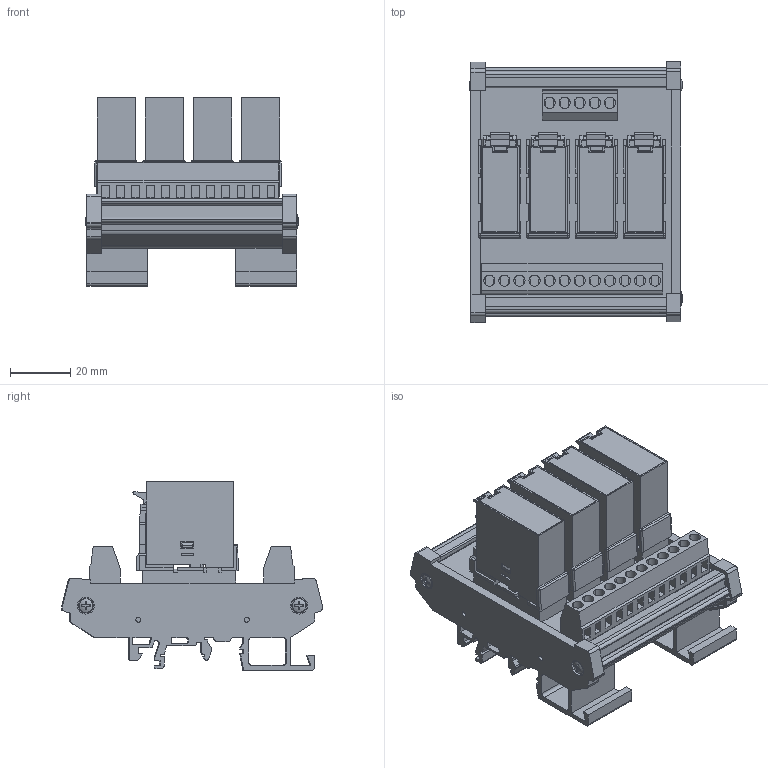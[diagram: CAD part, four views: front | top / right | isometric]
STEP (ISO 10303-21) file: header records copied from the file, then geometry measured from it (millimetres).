
FILE_DESCRIPTION (( 'STEP AP203' ), '1' );
FILE_NAME ('4弇耀郪 俋倛.STEP', '2022-12-28T08:25:05', ( '' ), ( '' ), 'SwSTEP 2.0', 'SolidWorks 2018', '' );
FILE_SCHEMA (( 'CONFIG_CONTROL_DESIGN' ));
Length unit declared in the file: millimetre
Products named in the file (3): 4弇耀郪 俋倛; RFT-1C-L 俋倛; 零件153^4位模组总装图
Assembly tree (5 placements, depth 2):
  4弇耀郪 俋倛
    RFT-1C-L 俋倛  x4
    零件153^4位模组总装图
Bounding box: 70.74 x 86.73 x 62.53 mm (x, y, z)
Volume: 141878.6 mm3; surface area: 71103.5 mm2
Topology: 9 solids, 27 shells, 7273 faces, 20949 edges, 13830 vertices
Faces by surface type: plane 5034, cylinder 2011, bspline 112, sphere 92, cone 16, torus 8
Entity records: 211159 total; most frequent: CARTESIAN_POINT 41389, ORIENTED_EDGE 36870, DIRECTION 34026, EDGE_CURVE 18435, LINE 13656, VECTOR 13656, VERTEX_POINT 12194, AXIS2_PLACEMENT_3D 10185
